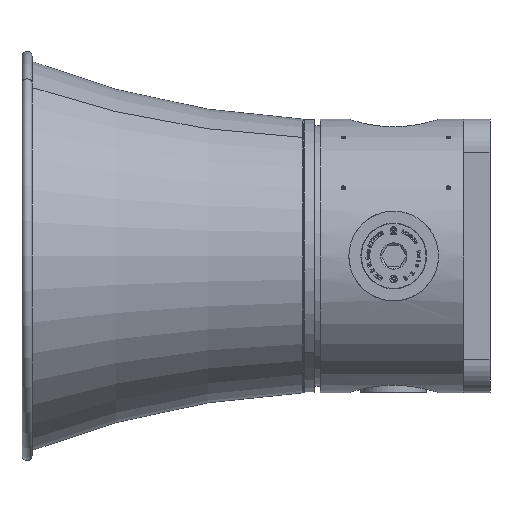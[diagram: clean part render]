
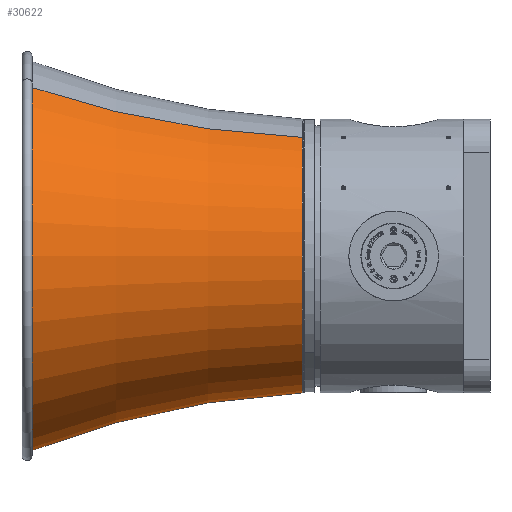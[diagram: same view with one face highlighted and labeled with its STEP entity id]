
A CAD part, left-side view. The second image highlights one B-rep face of the part: STEP entity #30622.
In plain terms, the highlighted toroidal (fillet/blend) face has major radius 462.029 mm and minor radius 400 mm.
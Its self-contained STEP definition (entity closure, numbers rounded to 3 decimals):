
#29645=CARTESIAN_POINT('',(0.,462.029,19.404));
#29646=DIRECTION('',(-1.,0.,0.));
#29647=DIRECTION('',(0.,-0.931,-0.366));
#29648=AXIS2_PLACEMENT_3D('',#29645,#29646,#29647);
#29655=CARTESIAN_POINT('',(0.,-462.029,
19.404));
#29656=DIRECTION('',(1.,0.,0.));
#29657=DIRECTION('',(0.,0.931,-0.366));
#29658=AXIS2_PLACEMENT_3D('',#29655,#29656,#29657);
#29997=CARTESIAN_POINT('',(0.,0.,-127.049));
#29998=DIRECTION('',(0.,0.,1.));
#29999=DIRECTION('',(0.,1.,0.));
#30000=AXIS2_PLACEMENT_3D('',#29997,#29998,#29999);
#30007=CARTESIAN_POINT('',(0.,0.,-0.76));
#30008=DIRECTION('',(0.,0.,1.));
#30009=DIRECTION('',(0.,1.,0.));
#30010=AXIS2_PLACEMENT_3D('',#30007,#30008,#30009);
#30018=CARTESIAN_POINT('',(0.,89.804,-127.049));
#30020=VERTEX_POINT('',#30018);
#30022=CARTESIAN_POINT('',(0.,-89.804,
-127.049));
#30024=VERTEX_POINT('',#30022);
#30101=CARTESIAN_POINT('',(0.,62.538,
-0.76));
#30102=CARTESIAN_POINT('',(0.,-62.538,
-0.76));
#30103=VERTEX_POINT('',#30101);
#30104=VERTEX_POINT('',#30102);
#30610=CARTESIAN_POINT('',(0.,0.,19.404));
#30611=DIRECTION('',(0.,0.,1.));
#30612=DIRECTION('',(0.,1.,0.));
#30613=AXIS2_PLACEMENT_3D('',#30610,#30611,#30612);
#30614=TOROIDAL_SURFACE('',#30613,462.029,400.);
#30616=ORIENTED_EDGE('',*,*,#30615,.T.);
#30617=ORIENTED_EDGE('',*,*,#30124,.F.);
#30618=ORIENTED_EDGE('',*,*,#30577,.F.);
#30619=ORIENTED_EDGE('',*,*,#30120,.T.);
#30620=EDGE_LOOP('',(#30616,#30617,#30618,#30619));
#30621=FACE_OUTER_BOUND('',#30620,.F.);
#30622=ADVANCED_FACE('',(#30621),#30614,.F.);
#29649=CIRCLE('',#29648,400.);
#29659=CIRCLE('',#29658,400.);
#30001=CIRCLE('',#30000,89.804);
#30011=CIRCLE('',#30010,62.538);
#30120=EDGE_CURVE('',#30020,#30103,#29649,.T.);
#30124=EDGE_CURVE('',#30024,#30104,#29659,.T.);
#30577=EDGE_CURVE('',#30020,#30024,#30001,.T.);
#30615=EDGE_CURVE('',#30103,#30104,#30011,.T.);
